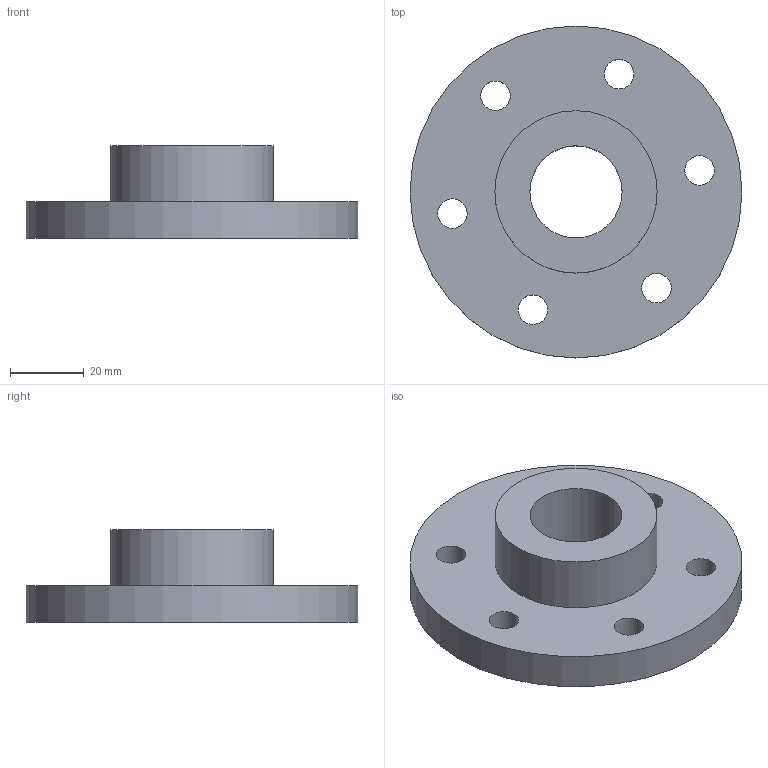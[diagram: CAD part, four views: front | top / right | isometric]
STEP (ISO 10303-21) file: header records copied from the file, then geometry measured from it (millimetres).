
FILE_DESCRIPTION(('Open CASCADE Model'),'2;1');
FILE_NAME('Open CASCADE Shape Model','2026-11-12T02:20:11',('Author'),( 'Open CASCADE'),'Open CASCADE STEP processor 7.9','Open CASCADE 7.9' ,'Unknown');
FILE_SCHEMA(('AUTOMOTIVE_DESIGN { 1 0 10303 214 1 1 1 1 }'));
Length unit declared in the file: millimetre
Products named in the file (1): Open CASCADE STEP translator 7.9 1
Bounding box: 89.99 x 89.99 x 25.19 mm (x, y, z)
Volume: 71311.6 mm3; surface area: 19548.2 mm2
Topology: 1 solids, 1 shells, 12 faces, 27 edges, 18 vertices
Faces by surface type: cylinder 9, plane 3
Full cylindrical faces by diameter (mm): 7.998 x2, 8.004 x3, 8.008 x1, 24.998 x1, 43.996 x1, 89.99 x1
Entity records: 780 total; most frequent: CARTESIAN_POINT 196, DIRECTION 111, ORIENTED_EDGE 54, PCURVE 54, DEFINITIONAL_REPRESENTATION 54, LINE 45, VECTOR 45, AXIS2_PLACEMENT_3D 31
